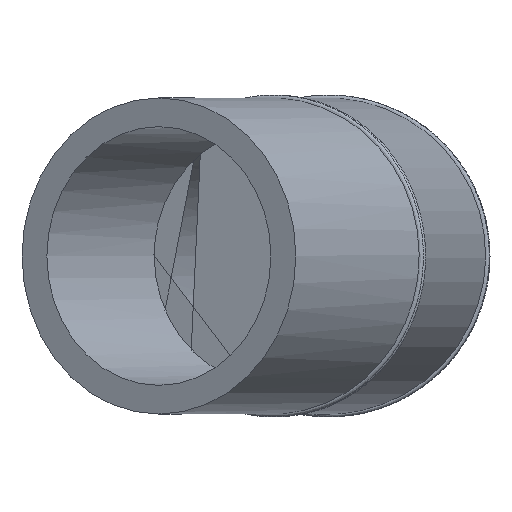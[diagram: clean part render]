
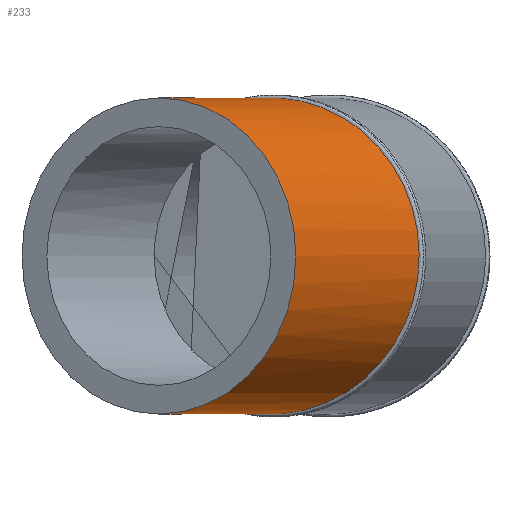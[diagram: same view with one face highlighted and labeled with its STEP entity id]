
A CAD part, front view. The second image highlights one B-rep face of the part: STEP entity #233.
In plain terms, the highlighted cylindrical face has radius 225 mm (diameter 450 mm), a full revolution.
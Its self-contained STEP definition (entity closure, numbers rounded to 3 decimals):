
#37=B_SPLINE_CURVE_WITH_KNOTS('',3,(#396,#397,#398,#399,#400,#401,#402,
#403,#404,#405,#406,#407,#408,#409,#410,#411,#412,#413,#414,#415,#416,#417,
#418,#419,#420,#421,#422,#423,#424,#425,#426,#427,#428,#429,#430,#431,#432,
#433,#434,#435,#436,#437,#438,#439,#440,#441,#442,#443,#444,#445,#446,#447,
#448,#449,#450,#451,#452,#453,#454,#455,#456,#457,#458,#459,#460,#461,#462,
#463,#464,#465,#466,#467,#468,#469,#470,#471,#472,#473,#474,#475,#476,#477,
#478,#479,#480,#481,#482,#483,#484,#485,#486),.UNSPECIFIED.,.T.,.F.,(1,
1,1,1,1,1,1,1,1,1,1,1,1,1,1,1,1,1,1,1,1,1,1,1,1,1,1,1,1,1,1,1,1,1,1,1,1,
1,1,1,1,1,1,1,1,1,1,1,1,1,1,1,1,1,1,1,1,1,1,1,1,1,1,1,1,1,1,1,1,1,1,1,1,
1,1,1,1,1,1,1,1,1,1,1,1,1,1,1,1,1,1,1,1,1,1),(-0.056,-0.045,
-0.022,0.,0.022,0.033,
0.045,0.067,0.078,0.089,
0.1,0.111,0.134,0.156,
0.178,0.201,0.212,0.223,
0.234,0.245,0.256,0.267,
0.29,0.312,0.323,0.334,
0.356,0.379,0.39,0.401,
0.423,0.446,0.468,0.479,
0.49,0.501,0.512,0.535,
0.557,0.579,0.59,0.602,
0.624,0.646,0.657,0.668,
0.691,0.713,0.724,0.735,
0.746,0.757,0.769,0.78,
0.802,0.824,0.847,0.869,
0.88,0.891,0.913,0.936,
0.958,0.969,0.98,0.991,
1.003,1.025,1.047,1.069,1.092,
1.103,1.114,1.125,1.136,1.147,
1.158,1.181,1.203,1.225,1.236,
1.248,1.259,1.27,1.292,1.314,
1.337,1.359,1.37,1.381,1.404,
1.426,1.448,1.459,1.47),
 .UNSPECIFIED.);
#46=CYLINDRICAL_SURFACE('',#283,225.);
#78=ORIENTED_EDGE('',*,*,#130,.T.);
#79=ORIENTED_EDGE('',*,*,#123,.F.);
#123=EDGE_CURVE('',#149,#149,#169,.T.);
#130=EDGE_CURVE('',#156,#156,#37,.T.);
#149=VERTEX_POINT('',#381);
#156=VERTEX_POINT('',#487);
#169=CIRCLE('',#275,225.);
#175=EDGE_LOOP('',(#78));
#176=EDGE_LOOP('',(#79));
#203=FACE_BOUND('',#175,.T.);
#204=FACE_BOUND('',#176,.T.);
#233=ADVANCED_FACE('',(#203,#204),#46,.T.);
#275=AXIS2_PLACEMENT_3D('',#380,#312,#313);
#283=AXIS2_PLACEMENT_3D('',#395,#328,#329);
#312=DIRECTION('',(0.,1.,0.));
#313=DIRECTION('',(-1.,0.,0.));
#328=DIRECTION('',(0.,1.,0.));
#329=DIRECTION('',(-1.,0.,0.));
#380=CARTESIAN_POINT('',(1136.49,180.,0.));
#381=CARTESIAN_POINT('',(911.49,180.,0.));
#395=CARTESIAN_POINT('',(1136.49,-179.244,0.));
#396=CARTESIAN_POINT('',(912.225,-112.062,-22.258));
#397=CARTESIAN_POINT('',(911.123,-111.917,-0.004));
#398=CARTESIAN_POINT('',(912.043,-112.038,18.56));
#399=CARTESIAN_POINT('',(913.869,-112.278,33.255));
#400=CARTESIAN_POINT('',(916.427,-112.614,47.892));
#401=CARTESIAN_POINT('',(920.05,-113.09,62.247));
#402=CARTESIAN_POINT('',(924.738,-113.706,76.336));
#403=CARTESIAN_POINT('',(928.76,-114.234,86.682));
#404=CARTESIAN_POINT('',(933.285,-114.829,96.819));
#405=CARTESIAN_POINT('',(939.995,-115.71,110.047));
#406=CARTESIAN_POINT('',(949.493,-116.958,125.766));
#407=CARTESIAN_POINT('',(962.629,-118.684,143.389));
#408=CARTESIAN_POINT('',(977.591,-120.65,159.812));
#409=CARTESIAN_POINT('',(991.268,-122.448,172.136));
#410=CARTESIAN_POINT('',(1002.946,-123.983,181.195));
#411=CARTESIAN_POINT('',(1011.998,-125.174,187.529));
#412=CARTESIAN_POINT('',(1021.335,-126.401,193.404));
#413=CARTESIAN_POINT('',(1030.974,-127.669,198.827));
#414=CARTESIAN_POINT('',(1040.862,-128.969,203.766));
#415=CARTESIAN_POINT('',(1054.308,-130.738,209.68));
#416=CARTESIAN_POINT('',(1071.697,-133.025,215.845));
#417=CARTESIAN_POINT('',(1089.505,-135.368,220.255));
#418=CARTESIAN_POINT('',(1104.035,-137.281,222.738));
#419=CARTESIAN_POINT('',(1118.577,-139.195,224.494));
#420=CARTESIAN_POINT('',(1136.737,-141.585,225.351));
#421=CARTESIAN_POINT('',(1154.889,-143.975,224.454));
#422=CARTESIAN_POINT('',(1169.395,-145.885,222.672));
#423=CARTESIAN_POINT('',(1183.919,-147.798,220.16));
#424=CARTESIAN_POINT('',(1201.718,-150.143,215.714));
#425=CARTESIAN_POINT('',(1222.567,-152.89,208.275));
#426=CARTESIAN_POINT('',(1239.178,-155.079,200.437));
#427=CARTESIAN_POINT('',(1252.032,-156.773,193.173));
#428=CARTESIAN_POINT('',(1261.362,-158.003,187.277));
#429=CARTESIAN_POINT('',(1270.392,-159.193,180.932));
#430=CARTESIAN_POINT('',(1282.049,-160.73,171.851));
#431=CARTESIAN_POINT('',(1295.708,-162.531,159.494));
#432=CARTESIAN_POINT('',(1310.639,-164.5,143.042));
#433=CARTESIAN_POINT('',(1321.628,-165.95,128.237));
#434=CARTESIAN_POINT('',(1329.564,-166.997,115.709));
#435=CARTESIAN_POINT('',(1336.817,-167.953,102.9));
#436=CARTESIAN_POINT('',(1344.642,-168.986,86.362));
#437=CARTESIAN_POINT('',(1350.828,-169.802,69.131));
#438=CARTESIAN_POINT('',(1354.778,-170.323,54.925));
#439=CARTESIAN_POINT('',(1358.046,-170.755,40.427));
#440=CARTESIAN_POINT('',(1360.766,-171.113,22.138));
#441=CARTESIAN_POINT('',(1361.676,-171.234,3.566));
#442=CARTESIAN_POINT('',(1361.302,-171.184,-11.225));
#443=CARTESIAN_POINT('',(1360.473,-171.075,-22.319));
#444=CARTESIAN_POINT('',(1359.095,-170.893,-33.369));
#445=CARTESIAN_POINT('',(1357.179,-170.64,-44.3));
#446=CARTESIAN_POINT('',(1354.726,-170.316,-55.131));
#447=CARTESIAN_POINT('',(1350.733,-169.789,-69.436));
#448=CARTESIAN_POINT('',(1344.462,-168.962,-86.82));
#449=CARTESIAN_POINT('',(1334.873,-167.697,-106.922));
#450=CARTESIAN_POINT('',(1323.531,-166.201,-125.699));
#451=CARTESIAN_POINT('',(1312.615,-164.761,-140.353));
#452=CARTESIAN_POINT('',(1303.007,-163.494,-151.453));
#453=CARTESIAN_POINT('',(1292.781,-162.145,-162.154));
#454=CARTESIAN_POINT('',(1279.115,-160.343,-174.489));
#455=CARTESIAN_POINT('',(1261.271,-157.991,-187.664));
#456=CARTESIAN_POINT('',(1245.481,-155.91,-197.081));
#457=CARTESIAN_POINT('',(1232.285,-154.171,-203.689));
#458=CARTESIAN_POINT('',(1222.198,-152.841,-208.134));
#459=CARTESIAN_POINT('',(1211.909,-151.486,-212.08));
#460=CARTESIAN_POINT('',(1197.899,-149.64,-216.677));
#461=CARTESIAN_POINT('',(1180.091,-147.294,-221.103));
#462=CARTESIAN_POINT('',(1158.192,-144.41,-224.311));
#463=CARTESIAN_POINT('',(1136.384,-141.539,-225.35));
#464=CARTESIAN_POINT('',(1118.24,-139.15,-224.465));
#465=CARTESIAN_POINT('',(1103.759,-137.244,-222.697));
#466=CARTESIAN_POINT('',(1092.89,-135.814,-220.827));
#467=CARTESIAN_POINT('',(1082.117,-134.396,-218.424));
#468=CARTESIAN_POINT('',(1071.501,-133.,-215.504));
#469=CARTESIAN_POINT('',(1061.025,-131.621,-212.063));
#470=CARTESIAN_POINT('',(1047.257,-129.81,-206.778));
#471=CARTESIAN_POINT('',(1030.64,-127.625,-198.955));
#472=CARTESIAN_POINT('',(1011.611,-125.123,-187.598));
#473=CARTESIAN_POINT('',(996.807,-123.176,-176.66));
#474=CARTESIAN_POINT('',(985.597,-121.703,-167.024));
#475=CARTESIAN_POINT('',(977.583,-120.649,-159.418));
#476=CARTESIAN_POINT('',(969.943,-119.645,-151.42));
#477=CARTESIAN_POINT('',(960.256,-118.372,-140.221));
#478=CARTESIAN_POINT('',(949.252,-116.926,-125.425));
#479=CARTESIAN_POINT('',(937.793,-115.421,-106.336));
#480=CARTESIAN_POINT('',(928.393,-114.186,-86.489));
#481=CARTESIAN_POINT('',(922.198,-113.372,-69.269));
#482=CARTESIAN_POINT('',(918.247,-112.853,-55.098));
#483=CARTESIAN_POINT('',(914.97,-112.422,-40.625));
#484=CARTESIAN_POINT('',(912.225,-112.062,-22.258));
#485=CARTESIAN_POINT('',(911.123,-111.917,-0.004));
#486=CARTESIAN_POINT('',(912.043,-112.038,18.56));
#487=CARTESIAN_POINT('',(911.49,-111.965,0.));
